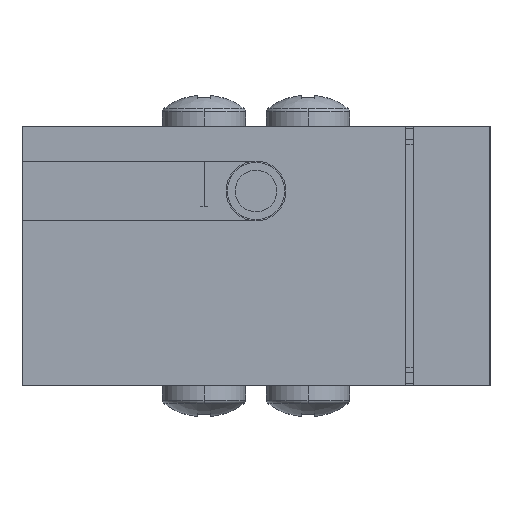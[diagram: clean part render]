
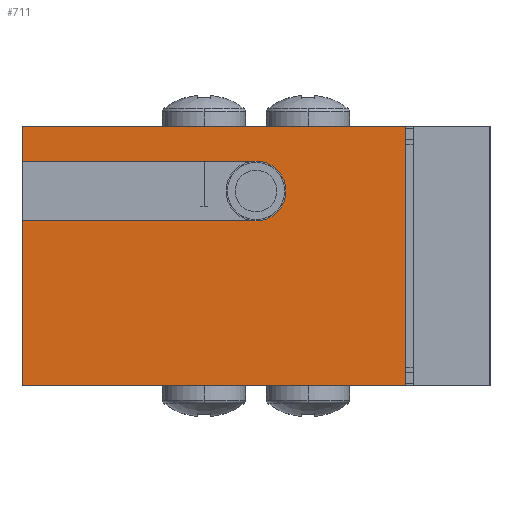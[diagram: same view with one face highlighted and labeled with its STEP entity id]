
A CAD part, left-side view. The second image highlights one B-rep face of the part: STEP entity #711.
In plain terms, the highlighted planar face has unit normal (-1, 0, 0).
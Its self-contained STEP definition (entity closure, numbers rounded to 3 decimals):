
#13 = ORIENTED_EDGE ( 'NONE', *, *, #1501, .F. ) ;
#30 = EDGE_LOOP ( 'NONE', ( #13, #535, #130, #3920, #4674, #1362, #3874, #1773 ) ) ;
#116 = DIRECTION ( 'NONE',  ( -1., 0., 0. ) ) ;
#130 = ORIENTED_EDGE ( 'NONE', *, *, #3805, .T. ) ;
#149 = CARTESIAN_POINT ( 'NONE',  ( -9., 0., 2.5 ) ) ;
#263 = VECTOR ( 'NONE', #3127, 1000. ) ;
#447 = CIRCLE ( 'NONE', #4515, 1.15 ) ;
#534 = VERTEX_POINT ( 'NONE', #5487 ) ;
#535 = ORIENTED_EDGE ( 'NONE', *, *, #2799, .F. ) ;
#621 = EDGE_CURVE ( 'NONE', #3693, #5243, #4499, .T. ) ;
#640 = VECTOR ( 'NONE', #911, 1000. ) ;
#711 = ADVANCED_FACE ( 'NONE', ( #2992 ), #945, .F. ) ;
#720 = EDGE_CURVE ( 'NONE', #5147, #534, #2782, .T. ) ;
#806 = CARTESIAN_POINT ( 'NONE',  ( -9., 0., 3.65 ) ) ;
#820 = VERTEX_POINT ( 'NONE', #2363 ) ;
#911 = DIRECTION ( 'NONE',  ( 0., 0., -1. ) ) ;
#945 = PLANE ( 'NONE',  #1955 ) ;
#1021 = DIRECTION ( 'NONE',  ( 0., -1., 0. ) ) ;
#1251 = CARTESIAN_POINT ( 'NONE',  ( -9., -5.75, 5. ) ) ;
#1332 = CARTESIAN_POINT ( 'NONE',  ( -9., 9., 5. ) ) ;
#1362 = ORIENTED_EDGE ( 'NONE', *, *, #621, .F. ) ;
#1400 = CARTESIAN_POINT ( 'NONE',  ( -9., 9., -5. ) ) ;
#1501 = EDGE_CURVE ( 'NONE', #1566, #2673, #447, .T. ) ;
#1566 = VERTEX_POINT ( 'NONE', #4770 ) ;
#1732 = CARTESIAN_POINT ( 'NONE',  ( -9., 9., 5. ) ) ;
#1773 = ORIENTED_EDGE ( 'NONE', *, *, #3577, .F. ) ;
#1955 = AXIS2_PLACEMENT_3D ( 'NONE', #4843, #2291, #2660 ) ;
#2025 = CARTESIAN_POINT ( 'NONE',  ( -9., -5.75, -5. ) ) ;
#2241 = CARTESIAN_POINT ( 'NONE',  ( -9., 9., 3.65 ) ) ;
#2291 = DIRECTION ( 'NONE',  ( 1., 0., 0. ) ) ;
#2363 = CARTESIAN_POINT ( 'NONE',  ( -9., 9., 1.35 ) ) ;
#2396 = LINE ( 'NONE', #1732, #640 ) ;
#2431 = DIRECTION ( 'NONE',  ( 0., 0., -1. ) ) ;
#2660 = DIRECTION ( 'NONE',  ( 0., 0., -1. ) ) ;
#2673 = VERTEX_POINT ( 'NONE', #806 ) ;
#2782 = LINE ( 'NONE', #1400, #3970 ) ;
#2799 = EDGE_CURVE ( 'NONE', #820, #1566, #4902, .T. ) ;
#2926 = CARTESIAN_POINT ( 'NONE',  ( -9., 9., -5. ) ) ;
#2992 = FACE_OUTER_BOUND ( 'NONE', #30, .T. ) ;
#3000 = LINE ( 'NONE', #4501, #4923 ) ;
#3127 = DIRECTION ( 'NONE',  ( 0., 1., 0. ) ) ;
#3323 = VECTOR ( 'NONE', #4092, 1000. ) ;
#3577 = EDGE_CURVE ( 'NONE', #2673, #4802, #4192, .T. ) ;
#3644 = VECTOR ( 'NONE', #3942, 1000. ) ;
#3693 = VERTEX_POINT ( 'NONE', #4404 ) ;
#3728 = EDGE_CURVE ( 'NONE', #534, #5243, #5378, .T. ) ;
#3805 = EDGE_CURVE ( 'NONE', #820, #5147, #3000, .T. ) ;
#3874 = ORIENTED_EDGE ( 'NONE', *, *, #4705, .T. ) ;
#3920 = ORIENTED_EDGE ( 'NONE', *, *, #720, .T. ) ;
#3942 = DIRECTION ( 'NONE',  ( 0., -1., 0. ) ) ;
#3970 = VECTOR ( 'NONE', #1021, 1000. ) ;
#4002 = CARTESIAN_POINT ( 'NONE',  ( -9., 0., 3.65 ) ) ;
#4057 = DIRECTION ( 'NONE',  ( 0., 0., 1. ) ) ;
#4092 = DIRECTION ( 'NONE',  ( 0., -1., 0. ) ) ;
#4192 = LINE ( 'NONE', #4002, #263 ) ;
#4261 = VECTOR ( 'NONE', #4057, 1000. ) ;
#4404 = CARTESIAN_POINT ( 'NONE',  ( -9., 9., 5. ) ) ;
#4499 = LINE ( 'NONE', #1332, #3644 ) ;
#4501 = CARTESIAN_POINT ( 'NONE',  ( -9., 9., 5. ) ) ;
#4515 = AXIS2_PLACEMENT_3D ( 'NONE', #149, #116, #4809 ) ;
#4674 = ORIENTED_EDGE ( 'NONE', *, *, #3728, .T. ) ;
#4705 = EDGE_CURVE ( 'NONE', #3693, #4802, #2396, .T. ) ;
#4770 = CARTESIAN_POINT ( 'NONE',  ( -9., 0., 1.35 ) ) ;
#4802 = VERTEX_POINT ( 'NONE', #2241 ) ;
#4809 = DIRECTION ( 'NONE',  ( 0., 0., 1. ) ) ;
#4843 = CARTESIAN_POINT ( 'NONE',  ( -9., 9., 5. ) ) ;
#4902 = LINE ( 'NONE', #4978, #3323 ) ;
#4923 = VECTOR ( 'NONE', #2431, 1000. ) ;
#4978 = CARTESIAN_POINT ( 'NONE',  ( -9., 0., 1.35 ) ) ;
#5147 = VERTEX_POINT ( 'NONE', #2926 ) ;
#5243 = VERTEX_POINT ( 'NONE', #1251 ) ;
#5378 = LINE ( 'NONE', #2025, #4261 ) ;
#5487 = CARTESIAN_POINT ( 'NONE',  ( -9., -5.75, -5. ) ) ;
